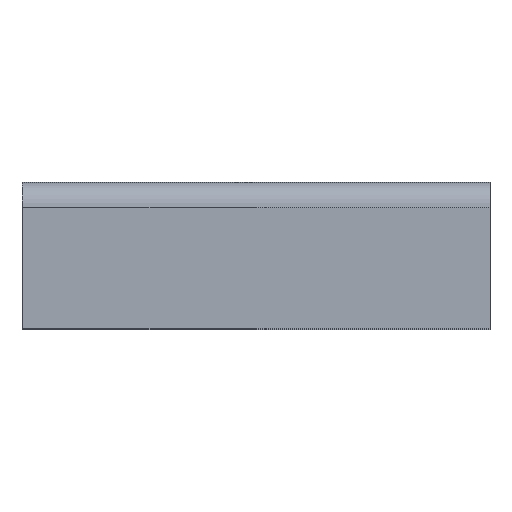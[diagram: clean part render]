
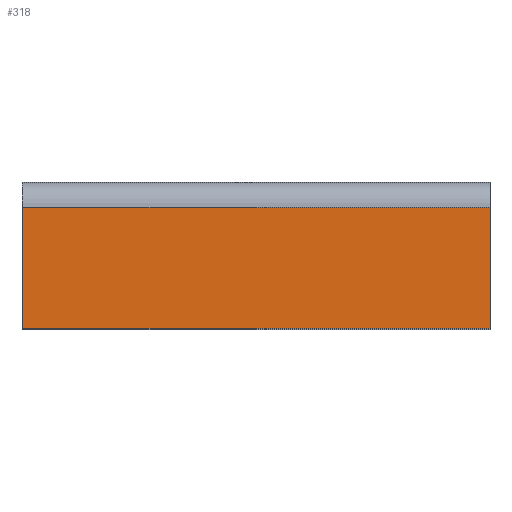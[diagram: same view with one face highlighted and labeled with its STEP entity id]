
A CAD part, top view. The second image highlights one B-rep face of the part: STEP entity #318.
In plain terms, the highlighted planar face has unit normal (0, 0, 1).
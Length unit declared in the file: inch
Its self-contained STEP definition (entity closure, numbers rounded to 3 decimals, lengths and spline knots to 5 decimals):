
#154 = VERTEX_POINT ( 'NONE', #984 ) ;
#311 = EDGE_CURVE ( 'NONE', #406, #366, #1195, .T. ) ;
#318 = ADVANCED_FACE ( 'NONE', ( #1176 ), #1175, .F. ) ;
#319 = EDGE_LOOP ( 'NONE', ( #320, #321, #401, #403 ) ) ;
#320 = ORIENTED_EDGE ( 'NONE', *, *, #415, .F. ) ;
#321 = ORIENTED_EDGE ( 'NONE', *, *, #311, .T. ) ;
#366 = VERTEX_POINT ( 'NONE', #1076 ) ;
#401 = ORIENTED_EDGE ( 'NONE', *, *, #402, .T. ) ;
#402 = EDGE_CURVE ( 'NONE', #366, #413, #1271, .T. ) ;
#403 = ORIENTED_EDGE ( 'NONE', *, *, #412, .T. ) ;
#406 = VERTEX_POINT ( 'NONE', #1321 ) ;
#412 = EDGE_CURVE ( 'NONE', #413, #154, #1315, .T. ) ;
#413 = VERTEX_POINT ( 'NONE', #1311 ) ;
#415 = EDGE_CURVE ( 'NONE', #406, #154, #1282, .T. ) ;
#984 = CARTESIAN_POINT ( 'NONE',  ( 8., -0.25, 0. ) ) ;
#1076 = CARTESIAN_POINT ( 'NONE',  ( 0., -2.3207, 0. ) ) ;
#1172 = DIRECTION ( 'NONE',  ( 0., 0., -1. ) ) ;
#1173 = CARTESIAN_POINT ( 'NONE',  ( 0., 0., 0. ) ) ;
#1174 = AXIS2_PLACEMENT_3D ( 'NONE', #1173, #1172, #1237 ) ;
#1175 = PLANE ( 'NONE',  #1174 ) ;
#1176 = FACE_OUTER_BOUND ( 'NONE', #319, .T. ) ;
#1192 = DIRECTION ( 'NONE',  ( 0., -1., 0. ) ) ;
#1193 = VECTOR ( 'NONE', #1192, 39.37008 ) ;
#1194 = CARTESIAN_POINT ( 'NONE',  ( 0., 0., 0. ) ) ;
#1195 = LINE ( 'NONE', #1194, #1193 ) ;
#1237 = DIRECTION ( 'NONE',  ( 0., 1., 0. ) ) ;
#1268 = DIRECTION ( 'NONE',  ( 1., 0., 0. ) ) ;
#1269 = VECTOR ( 'NONE', #1268, 39.37008 ) ;
#1270 = CARTESIAN_POINT ( 'NONE',  ( 0., -2.3207, 0. ) ) ;
#1271 = LINE ( 'NONE', #1270, #1269 ) ;
#1279 = DIRECTION ( 'NONE',  ( 1., 0., 0. ) ) ;
#1280 = VECTOR ( 'NONE', #1279, 39.37008 ) ;
#1281 = CARTESIAN_POINT ( 'NONE',  ( 8., -0.25, 0. ) ) ;
#1282 = LINE ( 'NONE', #1281, #1280 ) ;
#1311 = CARTESIAN_POINT ( 'NONE',  ( 8., -2.3207, 0. ) ) ;
#1312 = DIRECTION ( 'NONE',  ( 0., 1., 0. ) ) ;
#1313 = VECTOR ( 'NONE', #1312, 39.37008 ) ;
#1314 = CARTESIAN_POINT ( 'NONE',  ( 8., 0., 0. ) ) ;
#1315 = LINE ( 'NONE', #1314, #1313 ) ;
#1321 = CARTESIAN_POINT ( 'NONE',  ( 0., -0.25, 0. ) ) ;
